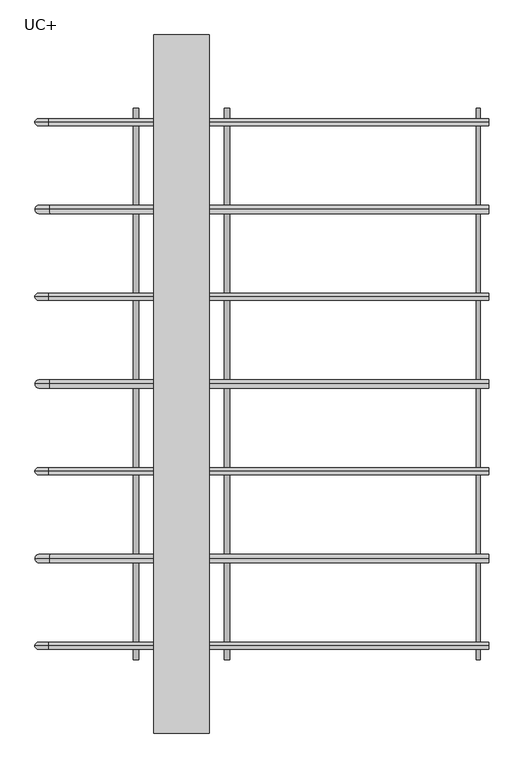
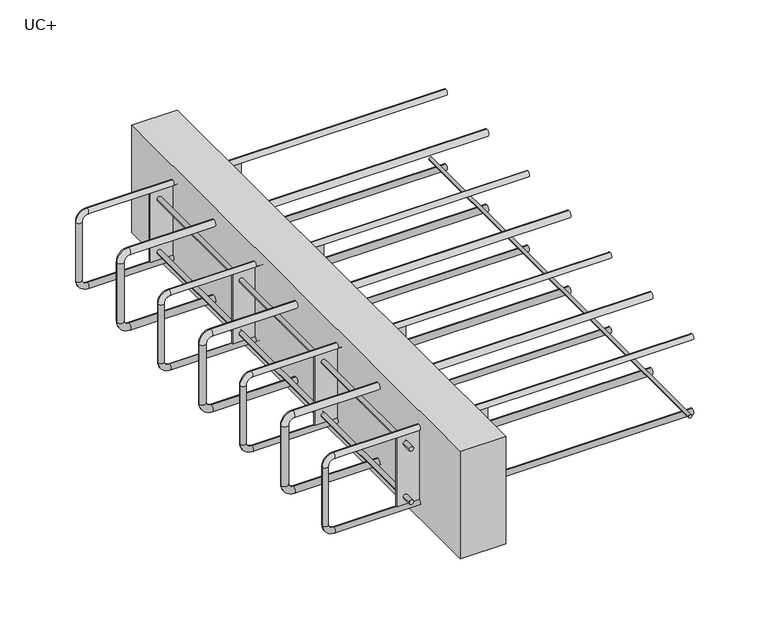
"""IFC4 building model written with IfcOpenShell, lengths in millimetres: fastener geometry, ACINOXplus_Typenreihe_Ux-Ox : UC+."""

import ifcopenshell
import ifcopenshell.guid

model = None  # the IFC model being written
_history = None  # IfcOwnerHistory: only IFC2X3 demands one
_inside = {}  # id of a spatial element -> (the spatial element, [elements in it])
_under = {}  # id of a project, library or spatial element -> (it, [spatial elements below it])
_declared = {}  # id of a project -> (the project, [libraries it declares])
_typed = {}  # id of a type object -> (the type object, [elements of that type])
_made_of = {}  # id of a material, layer set ... -> (it, [elements and type objects made of it])


def new_model(schema):
    """Start an empty IFC model of exactly this schema.

    Asked for "IFC4X3", IfcOpenShell would pick the latest addendum, in which some entities
    have other attributes; the version numbers below select the first issue.
    IFC2X3 requires an IfcOwnerHistory on every rooted entity: one is made here for all.
    """
    global model, _history
    if schema == "IFC4X3":
        model = ifcopenshell.file(schema_version=(4, 3, 0, 0))
    else:
        model = ifcopenshell.file(schema=schema)
    _inside.clear()
    _under.clear()
    _declared.clear()
    _typed.clear()
    _made_of.clear()
    _history = None
    if model.schema == "IFC2X3":
        org = make("IfcOrganization", Name="unknown")
        user = make(
            "IfcPersonAndOrganization",
            ThePerson=make("IfcPerson", FamilyName="unknown"),
            TheOrganization=org,
        )
        app = make(
            "IfcApplication",
            ApplicationDeveloper=org,
            Version="unknown",
            ApplicationFullName="unknown",
            ApplicationIdentifier="unknown",
        )
        _history = make(
            "IfcOwnerHistory",
            OwningUser=user,
            OwningApplication=app,
            ChangeAction="ADDED",
            CreationDate=0,
        )
    return model


def make(cls, **values):
    """One entity of the class cls with the attributes given. An attribute that is None is left unset."""
    return model.create_entity(
        cls, **{name: value for name, value in values.items() if value is not None}
    )


def rooted(cls, **values):
    """An entity with a GlobalId (a new one), such as an element, a storey or a relation."""
    return make(cls, GlobalId=ifcopenshell.guid.new(), OwnerHistory=_history, **values)


def si_unit(unit_type, name, prefix=None):
    """IfcSIUnit, for example si_unit("LENGTHUNIT", "METRE", prefix="MILLI")."""
    return make("IfcSIUnit", UnitType=unit_type, Prefix=prefix, Name=name)


def assignment(units):
    """IfcUnitAssignment: the units of a project."""
    return None if units is None else make("IfcUnitAssignment", Units=units)


def point(xyz):
    """IfcCartesianPoint."""
    return None if xyz is None else make("IfcCartesianPoint", Coordinates=xyz)


def direction(xyz):
    """IfcDirection."""
    return None if xyz is None else make("IfcDirection", DirectionRatios=xyz)


def frame(location, z_axis=None, x_axis=None):
    """IfcAxis2Placement3D, a coordinate frame: its origin and axes. An axis left out is left unset."""
    return make(
        "IfcAxis2Placement3D",
        Location=point(location),
        Axis=direction(z_axis),
        RefDirection=direction(x_axis),
    )


def frame_2d(location, x_axis=None):
    """IfcAxis2Placement2D, a coordinate frame in the plane: its origin and x axis."""
    return make(
        "IfcAxis2Placement2D", Location=point(location), RefDirection=direction(x_axis)
    )


def origin():
    """The frame at (0, 0, 0) with its axes left unset."""
    return frame((0.0, 0.0, 0.0))


def place(relative_to, where):
    """IfcLocalPlacement: puts the frame where relative to a parent placement (None: the world)."""
    return make(
        "IfcLocalPlacement", PlacementRelTo=relative_to, RelativePlacement=where
    )


def context(
    kind, dimensions, precision=None, world=None, true_north=None, identifier=None
):
    """IfcGeometricRepresentationContext, for example the 3D "Model" context."""
    return make(
        "IfcGeometricRepresentationContext",
        ContextIdentifier=identifier,
        ContextType=kind,
        CoordinateSpaceDimension=dimensions,
        Precision=precision,
        WorldCoordinateSystem=world,
        TrueNorth=true_north,
    )


def project(units=None, contexts=None):
    """IfcProject with its units and contexts."""
    return rooted(
        "IfcProject",
        Name="project",
        RepresentationContexts=contexts,
        UnitsInContext=assignment(units),
    )


def spatial(cls, under=None, at=None, **own):
    """A site, building, storey or space (cls), placed at a placement, below another one or the project."""
    s = rooted(cls, ObjectPlacement=at, **own)
    if under is not None:
        _under.setdefault(under.id(), (under, []))[1].append(s)
    return s


def polyline(points):
    """IfcPolyline through the points."""
    return make("IfcPolyline", Points=[point(p) for p in points])


def circle_curve(where, radius):
    """IfcCircle in the frame where."""
    return make("IfcCircle", Position=where, Radius=radius)


def ellipse_curve(where, semi_axis1, semi_axis2):
    """IfcEllipse in the frame where."""
    return make(
        "IfcEllipse", Position=where, SemiAxis1=semi_axis1, SemiAxis2=semi_axis2
    )


def trimmed(basis, trim1, trim2, sense, master):
    """IfcTrimmedCurve: the piece of a basis curve between two trims."""
    return make(
        "IfcTrimmedCurve",
        BasisCurve=basis,
        Trim1=trim1,
        Trim2=trim2,
        SenseAgreement=sense,
        MasterRepresentation=master,
    )


def segment(curve, same_sense, transition):
    """IfcCompositeCurveSegment."""
    return make(
        "IfcCompositeCurveSegment",
        Transition=transition,
        SameSense=same_sense,
        ParentCurve=curve,
    )


def composite_curve(segments, self_intersect=None):
    """IfcCompositeCurve: segments joined end to end."""
    return make("IfcCompositeCurve", Segments=segments, SelfIntersect=self_intersect)


def outline(outer, holes=None, kind="AREA"):
    """IfcArbitraryClosedProfileDef: a profile drawn as a closed curve; with holes, ...WithVoids."""
    if holes is None:
        return make("IfcArbitraryClosedProfileDef", ProfileType=kind, OuterCurve=outer)
    return make(
        "IfcArbitraryProfileDefWithVoids",
        ProfileType=kind,
        OuterCurve=outer,
        InnerCurves=holes,
    )


def extrude(swept, where, along, depth):
    """IfcExtrudedAreaSolid: the profile swept, set in the frame where, extruded along a direction by depth."""
    return make(
        "IfcExtrudedAreaSolid",
        SweptArea=swept,
        Position=where,
        ExtrudedDirection=direction(along),
        Depth=depth,
    )


def shape(context_of_items, identifier, shape_type, items):
    """IfcShapeRepresentation: the items that make up one representation, for example the "Body"."""
    return make(
        "IfcShapeRepresentation",
        ContextOfItems=context_of_items,
        RepresentationIdentifier=identifier,
        RepresentationType=shape_type,
        Items=items,
    )


def source(mapping_origin, context_of_items, identifier, shape_type, items):
    """IfcRepresentationMap: a shape defined once, which mapped items show again and again."""
    return make(
        "IfcRepresentationMap",
        MappingOrigin=mapping_origin,
        MappedRepresentation=shape(context_of_items, identifier, shape_type, items),
    )


def transform(
    local_origin,
    x_axis=None,
    y_axis=None,
    z_axis=None,
    scale=None,
    scale2=None,
    scale3=None,
    uniform=True,
):
    """IfcCartesianTransformationOperator3D, or its non-uniform kind. x_axis, y_axis, z_axis: its Axis1, 2, 3."""
    if uniform:
        return make(
            "IfcCartesianTransformationOperator3D",
            Axis1=direction(x_axis),
            Axis2=direction(y_axis),
            LocalOrigin=point(local_origin),
            Scale=scale,
            Axis3=direction(z_axis),
        )
    return make(
        "IfcCartesianTransformationOperator3DnonUniform",
        Axis1=direction(x_axis),
        Axis2=direction(y_axis),
        LocalOrigin=point(local_origin),
        Scale=scale,
        Axis3=direction(z_axis),
        Scale2=scale2,
        Scale3=scale3,
    )


def mapped(mapping_source, mapping_target):
    """IfcMappedItem: shows the shape of a source again, moved by a transform."""
    return make(
        "IfcMappedItem", MappingSource=mapping_source, MappingTarget=mapping_target
    )


def made_of(thing, what):
    """Note that an element or type object is made of a material, layer set ...; save() writes the relation."""
    if what is not None:
        _made_of.setdefault(what.id(), (what, []))[1].append(thing)
    return thing


def element(
    cls,
    number,
    at=None,
    inside=None,
    cuts=None,
    type_object=None,
    material=None,
    context=None,
    identifier="Body",
    shape_type=None,
    held_by="IfcProductDefinitionShape",
    body=None,
    shapes=None,
    **own,
):
    """One element of the class cls, such as IfcWall. Its Tag is "e" and its number.

    at: its placement. inside: the storey or other place that contains it. cuts: it is an
    opening in that element (IfcRelVoidsElement). A single representation is given by context,
    identifier, shape_type and body (its items); several are given by shapes. held_by: the class
    of the entity that holds the representations. save() writes the other relations.
    """
    e = rooted(cls, Tag="e%d" % number, ObjectPlacement=at, **own)
    if body is not None:
        shapes = [shape(context, identifier, shape_type, body)]
    if shapes is not None:
        e.Representation = make(held_by, Representations=shapes)
    if inside is not None:
        _inside.setdefault(inside.id(), (inside, []))[1].append(e)
    if cuts is not None:
        rooted(
            "IfcRelVoidsElement", RelatingBuildingElement=cuts, RelatedOpeningElement=e
        )
    if type_object is not None:
        _typed.setdefault(type_object.id(), (type_object, []))[1].append(e)
    return made_of(e, material)


def aggregate(whole, parts):
    """IfcRelAggregates: a whole, such as a stair, and the parts it consists of."""
    return rooted("IfcRelAggregates", RelatingObject=whole, RelatedObjects=parts)


def save(model, path):
    """Write the relations noted so far, then the file.

    IfcRelAggregates (storeys below a building ...), IfcRelContainedInSpatialStructure (elements
    in a storey), IfcRelDefinesByType, IfcRelAssociatesMaterial and IfcRelDeclares: one each for
    every whole, place, type object, material and project.
    """
    for whole, parts in _under.values():
        aggregate(whole, parts)
    for where, things in _inside.values():
        rooted(
            "IfcRelContainedInSpatialStructure",
            RelatedElements=things,
            RelatingStructure=where,
        )
    for kind, things in _typed.values():
        rooted("IfcRelDefinesByType", RelatedObjects=things, RelatingType=kind)
    for what, things in _made_of.values():
        rooted("IfcRelAssociatesMaterial", RelatedObjects=things, RelatingMaterial=what)
    for by, libraries in _declared.values():
        rooted("IfcRelDeclares", RelatingContext=by, RelatedDefinitions=libraries)
    model.write(path)


def plane_surface(at):
    """IfcPlane: the flat surface through the origin of the frame at, square to its z axis."""
    return make("IfcPlane", Position=at)


def cylinder_surface(at, radius):
    """IfcCylindricalSurface: all points at the distance radius from the z axis of the frame at."""
    return make("IfcCylindricalSurface", Position=at, Radius=radius)


def revolved_surface(curve, axis_point, axis_direction):
    """IfcSurfaceOfRevolution: the curve turned about the line through axis_point along axis_direction."""
    return make(
        "IfcSurfaceOfRevolution",
        SweptCurve=make("IfcArbitraryOpenProfileDef", ProfileType="CURVE", Curve=curve),
        AxisPosition=make("IfcAxis1Placement", Location=point(axis_point), Axis=direction(axis_direction)),
    )


def advanced_brep(points, edges, surfaces, faces):
    """IfcAdvancedBrep: a solid bounded by faces that lie on surfaces and meet in shared edges.

    An edge is (start, end): straight between two places in points (the first is 0);
    or (start, end, curve); or (start, end, curve, False) where it runs against its curve.
    A face is (place in surfaces, loops), or (place, loops, False) where it looks against
    its surface's normal. A loop lists edges by number (the first is 1), with a minus sign
    where the edge is run from its end to its start. The first loop is the outer one.
    """
    corners = [point(p) for p in points]
    vertices = [make("IfcVertexPoint", VertexGeometry=c) for c in corners]
    made = []
    for start, end, *more in edges:
        made.append(
            make(
                "IfcEdgeCurve",
                EdgeStart=vertices[start],
                EdgeEnd=vertices[end],
                EdgeGeometry=more[0] if more else make("IfcPolyline", Points=[corners[start], corners[end]]),
                SameSense=more[1] if len(more) > 1 else True,
            )
        )
    hull = []
    for where, loops, *sense in faces:
        bounds = []
        for j, loop in enumerate(loops):
            ring = [make("IfcOrientedEdge", EdgeElement=made[abs(k) - 1], Orientation=k > 0) for k in loop]
            bounds.append(
                make(
                    "IfcFaceOuterBound" if j == 0 else "IfcFaceBound",
                    Bound=make("IfcEdgeLoop", EdgeList=ring),
                    Orientation=True,
                )
            )
        hull.append(make("IfcAdvancedFace", Bounds=bounds, FaceSurface=surfaces[where], SameSense=sense[0] if sense else True))
    return make("IfcAdvancedBrep", Outer=make("IfcClosedShell", CfsFaces=hull))


def uc_1beb6939(model_context):
    return source(origin(), model_context, "Body", "SolidModel", [
        advanced_brep(
        [(440.0, 0.0, -23.5), (440.0, 0.0, -35.5), (-189.0, 0.0, -23.5), (-189.0, 0.0, -35.5), (-198.0, 0.0, -44.5), (-210.0, 0.0, -44.5), (-210.0, 0.0, -155.5), (-198.0, 0.0, -155.5), (-189.0, 0.0, -164.5), (-189.0, 0.0, -176.5), (440.0, 0.0, -176.5), (440.0, 0.0, -164.5)],
        [
            (0, 1, circle_curve(frame((440.0, 0.0, -29.5), z_axis=(1.0, 0.0, 0.0), x_axis=(0.0, 0.0, -1.0)), 6.0)),
            (1, 0, circle_curve(frame((440.0, 0.0, -29.5), z_axis=(1.0, 0.0, 0.0), x_axis=(0.0, 0.0, -1.0)), 6.0)),
            (0, 2),
            (2, 3, circle_curve(frame((-189.0, 0.0, -29.5), z_axis=(1.0, 0.0, 0.0), x_axis=(0.0, 0.0, -1.0)), 6.0)),
            (3, 1),
            (3, 2, circle_curve(frame((-189.0, 0.0, -29.5), z_axis=(1.0, 0.0, 0.0), x_axis=(0.0, 0.0, -1.0)), 6.0)),
            (4, 3, circle_curve(frame((-189.0, 0.0, -44.5), z_axis=(0.0, 1.0, 0.0), x_axis=(0.0, 0.0, 1.0)), 9.0)),
            (2, 5, circle_curve(frame((-189.0, 0.0, -44.5), z_axis=(0.0, -1.0, 0.0), x_axis=(0.0, 0.0, 1.0)), 21.0)),
            (5, 4, circle_curve(frame((-204.0, 0.0, -44.5), z_axis=(0.0, 0.0, 1.0), x_axis=(1.0, 0.0, 0.0)), 6.0)),
            (4, 5, circle_curve(frame((-204.0, 0.0, -44.5), z_axis=(0.0, 0.0, 1.0), x_axis=(1.0, 0.0, 0.0)), 6.0)),
            (5, 6),
            (6, 7, circle_curve(frame((-204.0, 0.0, -155.5), z_axis=(0.0, 0.0, 1.0), x_axis=(1.0, 0.0, 0.0)), 6.0)),
            (7, 4),
            (7, 6, circle_curve(frame((-204.0, 0.0, -155.5), z_axis=(0.0, 0.0, 1.0), x_axis=(1.0, 0.0, 0.0)), 6.0)),
            (8, 7, circle_curve(frame((-189.0, 0.0, -155.5), z_axis=(0.0, 1.0, 0.0), x_axis=(-1.0, 0.0, 0.0)), 9.0)),
            (6, 9, circle_curve(frame((-189.0, 0.0, -155.5), z_axis=(0.0, -1.0, 0.0), x_axis=(-1.0, 0.0, 0.0)), 21.0)),
            (9, 8, circle_curve(frame((-189.0, 0.0, -170.5), z_axis=(-1.0, 0.0, 0.0), x_axis=(0.0, 0.0, 1.0)), 6.0)),
            (8, 9, circle_curve(frame((-189.0, 0.0, -170.5), z_axis=(-1.0, 0.0, 0.0), x_axis=(0.0, 0.0, 1.0)), 6.0)),
            (10, 11, circle_curve(frame((440.0, 0.0, -170.5), z_axis=(1.0, 0.0, 0.0), x_axis=(0.0, 0.0, 1.0)), 6.0)),
            (11, 10, circle_curve(frame((440.0, 0.0, -170.5), z_axis=(1.0, 0.0, 0.0), x_axis=(0.0, 0.0, 1.0)), 6.0)),
            (9, 10),
            (11, 8),
        ],
        [
            plane_surface(frame((440.0, 0.0, -29.5), z_axis=(1.0, 0.0, 0.0), x_axis=(0.0, -1.0, 0.0))),
            cylinder_surface(frame((440.0, 0.0, -29.5), z_axis=(1.0, 0.0, 0.0), x_axis=(0.0, 0.0, -1.0)), 6.0),
            revolved_surface(trimmed(ellipse_curve(frame((-189.0, 0.0, -29.5), z_axis=(1.0, 0.0, 0.0), x_axis=(0.0, 0.0, -1.0)), 6.0, 6.0), [point((-189.0, 0.0, -23.5))], [point((-189.0, 0.0, -35.5))], True, "CARTESIAN"), (-189.0, 0.0, -44.5), (0.0, -1.0, 0.0)),
            revolved_surface(trimmed(ellipse_curve(frame((-189.0, 0.0, -29.5), z_axis=(1.0, 0.0, 0.0), x_axis=(0.0, 0.0, -1.0)), 6.0, 6.0), [point((-189.0, 0.0, -35.5))], [point((-189.0, 0.0, -23.5))], True, "CARTESIAN"), (-189.0, 0.0, -44.5), (0.0, -1.0, 0.0)),
            cylinder_surface(frame((-204.0, 0.0, -44.5), z_axis=(0.0, 0.0, 1.0), x_axis=(1.0, 0.0, 0.0)), 6.0),
            revolved_surface(trimmed(ellipse_curve(frame((-204.0, 0.0, -155.5), z_axis=(0.0, 0.0, 1.0), x_axis=(1.0, 0.0, 0.0)), 6.0, 6.0), [point((-210.0, 0.0, -155.5))], [point((-198.0, 0.0, -155.5))], True, "CARTESIAN"), (-189.0, 0.0, -155.5), (0.0, -1.0, 0.0)),
            revolved_surface(trimmed(ellipse_curve(frame((-204.0, 0.0, -155.5), z_axis=(0.0, 0.0, 1.0), x_axis=(1.0, 0.0, 0.0)), 6.0, 6.0), [point((-198.0, 0.0, -155.5))], [point((-210.0, 0.0, -155.5))], True, "CARTESIAN"), (-189.0, 0.0, -155.5), (0.0, -1.0, 0.0)),
            plane_surface(frame((440.0, 0.0, -170.5), z_axis=(1.0, 0.0, 0.0), x_axis=(0.0, -1.0, 0.0))),
            cylinder_surface(frame((-189.0, 0.0, -170.5), z_axis=(-1.0, 0.0, 0.0), x_axis=(0.0, 0.0, 1.0)), 6.0),
        ],
        [
            (0, [[1, 2]]),
            (1, [[-1, 3, 4, 5]]),
            (1, [[-2, -5, 6, -3]]),
            (2, [[7, -4, 8, 9]]),
            (3, [[-8, -6, -7, 10]]),
            (4, [[-9, 11, 12, 13]]),
            (4, [[-10, -13, 14, -11]]),
            (5, [[15, -12, 16, 17]]),
            (6, [[-16, -14, -15, 18]]),
            (7, [[19, 20]]),
            (8, [[-17, 21, -20, 22]]),
            (8, [[-18, -22, -19, -21]]),
        ],
    ),
        advanced_brep(
        [(440.0, 250.0, -23.5), (440.0, 250.0, -35.5), (-189.0, 250.0, -23.5), (-189.0, 250.0, -35.5), (-198.0, 250.0, -44.5), (-210.0, 250.0, -44.5), (-210.0, 250.0, -155.5), (-198.0, 250.0, -155.5), (-189.0, 250.0, -164.5), (-189.0, 250.0, -176.5), (440.0, 250.0, -176.5), (440.0, 250.0, -164.5)],
        [
            (0, 1, circle_curve(frame((440.0, 250.0, -29.5), z_axis=(1.0, 0.0, 0.0), x_axis=(0.0, 0.0, -1.0)), 6.0)),
            (1, 0, circle_curve(frame((440.0, 250.0, -29.5), z_axis=(1.0, 0.0, 0.0), x_axis=(0.0, 0.0, -1.0)), 6.0)),
            (0, 2),
            (2, 3, circle_curve(frame((-189.0, 250.0, -29.5), z_axis=(1.0, 0.0, 0.0), x_axis=(0.0, 0.0, -1.0)), 6.0)),
            (3, 1),
            (3, 2, circle_curve(frame((-189.0, 250.0, -29.5), z_axis=(1.0, 0.0, 0.0), x_axis=(0.0, 0.0, -1.0)), 6.0)),
            (4, 3, circle_curve(frame((-189.0, 250.0, -44.5), z_axis=(0.0, 1.0, 0.0), x_axis=(0.0, 0.0, 1.0)), 9.0)),
            (2, 5, circle_curve(frame((-189.0, 250.0, -44.5), z_axis=(0.0, -1.0, 0.0), x_axis=(0.0, 0.0, 1.0)), 21.0)),
            (5, 4, circle_curve(frame((-204.0, 250.0, -44.5), z_axis=(0.0, 0.0, 1.0), x_axis=(1.0, 0.0, 0.0)), 6.0)),
            (4, 5, circle_curve(frame((-204.0, 250.0, -44.5), z_axis=(0.0, 0.0, 1.0), x_axis=(1.0, 0.0, 0.0)), 6.0)),
            (5, 6),
            (6, 7, circle_curve(frame((-204.0, 250.0, -155.5), z_axis=(0.0, 0.0, 1.0), x_axis=(1.0, 0.0, 0.0)), 6.0)),
            (7, 4),
            (7, 6, circle_curve(frame((-204.0, 250.0, -155.5), z_axis=(0.0, 0.0, 1.0), x_axis=(1.0, 0.0, 0.0)), 6.0)),
            (8, 7, circle_curve(frame((-189.0, 250.0, -155.5), z_axis=(0.0, 1.0, 0.0), x_axis=(-1.0, 0.0, 0.0)), 9.0)),
            (6, 9, circle_curve(frame((-189.0, 250.0, -155.5), z_axis=(0.0, -1.0, 0.0), x_axis=(-1.0, 0.0, 0.0)), 21.0)),
            (9, 8, circle_curve(frame((-189.0, 250.0, -170.5), z_axis=(-1.0, 0.0, 0.0), x_axis=(0.0, 0.0, 1.0)), 6.0)),
            (8, 9, circle_curve(frame((-189.0, 250.0, -170.5), z_axis=(-1.0, 0.0, 0.0), x_axis=(0.0, 0.0, 1.0)), 6.0)),
            (10, 11, circle_curve(frame((440.0, 250.0, -170.5), z_axis=(1.0, 0.0, 0.0), x_axis=(0.0, 0.0, 1.0)), 6.0)),
            (11, 10, circle_curve(frame((440.0, 250.0, -170.5), z_axis=(1.0, 0.0, 0.0), x_axis=(0.0, 0.0, 1.0)), 6.0)),
            (9, 10),
            (11, 8),
        ],
        [
            plane_surface(frame((440.0, 250.0, -29.5), z_axis=(1.0, 0.0, 0.0), x_axis=(0.0, -1.0, 0.0))),
            cylinder_surface(frame((440.0, 250.0, -29.5), z_axis=(1.0, 0.0, 0.0), x_axis=(0.0, 0.0, -1.0)), 6.0),
            revolved_surface(trimmed(ellipse_curve(frame((-189.0, 250.0, -29.5), z_axis=(1.0, 0.0, 0.0), x_axis=(0.0, 0.0, -1.0)), 6.0, 6.0), [point((-189.0, 250.0, -23.5))], [point((-189.0, 250.0, -35.5))], True, "CARTESIAN"), (-189.0, 250.0, -44.5), (0.0, -1.0, 0.0)),
            revolved_surface(trimmed(ellipse_curve(frame((-189.0, 250.0, -29.5), z_axis=(1.0, 0.0, 0.0), x_axis=(0.0, 0.0, -1.0)), 6.0, 6.0), [point((-189.0, 250.0, -35.5))], [point((-189.0, 250.0, -23.5))], True, "CARTESIAN"), (-189.0, 250.0, -44.5), (0.0, -1.0, 0.0)),
            cylinder_surface(frame((-204.0, 250.0, -44.5), z_axis=(0.0, 0.0, 1.0), x_axis=(1.0, 0.0, 0.0)), 6.0),
            revolved_surface(trimmed(ellipse_curve(frame((-204.0, 250.0, -155.5), z_axis=(0.0, 0.0, 1.0), x_axis=(1.0, 0.0, 0.0)), 6.0, 6.0), [point((-210.0, 250.0, -155.5))], [point((-198.0, 250.0, -155.5))], True, "CARTESIAN"), (-189.0, 250.0, -155.5), (0.0, -1.0, 0.0)),
            revolved_surface(trimmed(ellipse_curve(frame((-204.0, 250.0, -155.5), z_axis=(0.0, 0.0, 1.0), x_axis=(1.0, 0.0, 0.0)), 6.0, 6.0), [point((-198.0, 250.0, -155.5))], [point((-210.0, 250.0, -155.5))], True, "CARTESIAN"), (-189.0, 250.0, -155.5), (0.0, -1.0, 0.0)),
            plane_surface(frame((440.0, 250.0, -170.5), z_axis=(1.0, 0.0, 0.0), x_axis=(0.0, -1.0, 0.0))),
            cylinder_surface(frame((-189.0, 250.0, -170.5), z_axis=(-1.0, 0.0, 0.0), x_axis=(0.0, 0.0, 1.0)), 6.0),
        ],
        [
            (0, [[1, 2]]),
            (1, [[-1, 3, 4, 5]]),
            (1, [[-2, -5, 6, -3]]),
            (2, [[7, -4, 8, 9]]),
            (3, [[-8, -6, -7, 10]]),
            (4, [[-9, 11, 12, 13]]),
            (4, [[-10, -13, 14, -11]]),
            (5, [[15, -12, 16, 17]]),
            (6, [[-16, -14, -15, 18]]),
            (7, [[19, 20]]),
            (8, [[-17, 21, -20, 22]]),
            (8, [[-18, -22, -19, -21]]),
        ],
    ),
        advanced_brep(
        [(440.0, -250.0, -23.5), (440.0, -250.0, -35.5), (-189.0, -250.0, -23.5), (-189.0, -250.0, -35.5), (-198.0, -250.0, -44.5), (-210.0, -250.0, -44.5), (-210.0, -250.0, -155.5), (-198.0, -250.0, -155.5), (-189.0, -250.0, -164.5), (-189.0, -250.0, -176.5), (440.0, -250.0, -176.5), (440.0, -250.0, -164.5)],
        [
            (0, 1, circle_curve(frame((440.0, -250.0, -29.5), z_axis=(1.0, 0.0, 0.0), x_axis=(0.0, 0.0, -1.0)), 6.0)),
            (1, 0, circle_curve(frame((440.0, -250.0, -29.5), z_axis=(1.0, 0.0, 0.0), x_axis=(0.0, 0.0, -1.0)), 6.0)),
            (0, 2),
            (2, 3, circle_curve(frame((-189.0, -250.0, -29.5), z_axis=(1.0, 0.0, 0.0), x_axis=(0.0, 0.0, -1.0)), 6.0)),
            (3, 1),
            (3, 2, circle_curve(frame((-189.0, -250.0, -29.5), z_axis=(1.0, 0.0, 0.0), x_axis=(0.0, 0.0, -1.0)), 6.0)),
            (4, 3, circle_curve(frame((-189.0, -250.0, -44.5), z_axis=(0.0, 1.0, 0.0), x_axis=(0.0, 0.0, 1.0)), 9.0)),
            (2, 5, circle_curve(frame((-189.0, -250.0, -44.5), z_axis=(0.0, -1.0, 0.0), x_axis=(0.0, 0.0, 1.0)), 21.0)),
            (5, 4, circle_curve(frame((-204.0, -250.0, -44.5), z_axis=(0.0, 0.0, 1.0), x_axis=(1.0, 0.0, 0.0)), 6.0)),
            (4, 5, circle_curve(frame((-204.0, -250.0, -44.5), z_axis=(0.0, 0.0, 1.0), x_axis=(1.0, 0.0, 0.0)), 6.0)),
            (5, 6),
            (6, 7, circle_curve(frame((-204.0, -250.0, -155.5), z_axis=(0.0, 0.0, 1.0), x_axis=(1.0, 0.0, 0.0)), 6.0)),
            (7, 4),
            (7, 6, circle_curve(frame((-204.0, -250.0, -155.5), z_axis=(0.0, 0.0, 1.0), x_axis=(1.0, 0.0, 0.0)), 6.0)),
            (8, 7, circle_curve(frame((-189.0, -250.0, -155.5), z_axis=(0.0, 1.0, 0.0), x_axis=(-1.0, 0.0, 0.0)), 9.0)),
            (6, 9, circle_curve(frame((-189.0, -250.0, -155.5), z_axis=(0.0, -1.0, 0.0), x_axis=(-1.0, 0.0, 0.0)), 21.0)),
            (9, 8, circle_curve(frame((-189.0, -250.0, -170.5), z_axis=(-1.0, 0.0, 0.0), x_axis=(0.0, 0.0, 1.0)), 6.0)),
            (8, 9, circle_curve(frame((-189.0, -250.0, -170.5), z_axis=(-1.0, 0.0, 0.0), x_axis=(0.0, 0.0, 1.0)), 6.0)),
            (10, 11, circle_curve(frame((440.0, -250.0, -170.5), z_axis=(1.0, 0.0, 0.0), x_axis=(0.0, 0.0, 1.0)), 6.0)),
            (11, 10, circle_curve(frame((440.0, -250.0, -170.5), z_axis=(1.0, 0.0, 0.0), x_axis=(0.0, 0.0, 1.0)), 6.0)),
            (9, 10),
            (11, 8),
        ],
        [
            plane_surface(frame((440.0, -250.0, -29.5), z_axis=(1.0, 0.0, 0.0), x_axis=(0.0, -1.0, 0.0))),
            cylinder_surface(frame((440.0, -250.0, -29.5), z_axis=(1.0, 0.0, 0.0), x_axis=(0.0, 0.0, -1.0)), 6.0),
            revolved_surface(trimmed(ellipse_curve(frame((-189.0, -250.0, -29.5), z_axis=(1.0, 0.0, 0.0), x_axis=(0.0, 0.0, -1.0)), 6.0, 6.0), [point((-189.0, -250.0, -23.5))], [point((-189.0, -250.0, -35.5))], True, "CARTESIAN"), (-189.0, -250.0, -44.5), (0.0, -1.0, 0.0)),
            revolved_surface(trimmed(ellipse_curve(frame((-189.0, -250.0, -29.5), z_axis=(1.0, 0.0, 0.0), x_axis=(0.0, 0.0, -1.0)), 6.0, 6.0), [point((-189.0, -250.0, -35.5))], [point((-189.0, -250.0, -23.5))], True, "CARTESIAN"), (-189.0, -250.0, -44.5), (0.0, -1.0, 0.0)),
            cylinder_surface(frame((-204.0, -250.0, -44.5), z_axis=(0.0, 0.0, 1.0), x_axis=(1.0, 0.0, 0.0)), 6.0),
            revolved_surface(trimmed(ellipse_curve(frame((-204.0, -250.0, -155.5), z_axis=(0.0, 0.0, 1.0), x_axis=(1.0, 0.0, 0.0)), 6.0, 6.0), [point((-210.0, -250.0, -155.5))], [point((-198.0, -250.0, -155.5))], True, "CARTESIAN"), (-189.0, -250.0, -155.5), (0.0, -1.0, 0.0)),
            revolved_surface(trimmed(ellipse_curve(frame((-204.0, -250.0, -155.5), z_axis=(0.0, 0.0, 1.0), x_axis=(1.0, 0.0, 0.0)), 6.0, 6.0), [point((-198.0, -250.0, -155.5))], [point((-210.0, -250.0, -155.5))], True, "CARTESIAN"), (-189.0, -250.0, -155.5), (0.0, -1.0, 0.0)),
            plane_surface(frame((440.0, -250.0, -170.5), z_axis=(1.0, 0.0, 0.0), x_axis=(0.0, -1.0, 0.0))),
            cylinder_surface(frame((-189.0, -250.0, -170.5), z_axis=(-1.0, 0.0, 0.0), x_axis=(0.0, 0.0, 1.0)), 6.0),
        ],
        [
            (0, [[1, 2]]),
            (1, [[-1, 3, 4, 5]]),
            (1, [[-2, -5, 6, -3]]),
            (2, [[7, -4, 8, 9]]),
            (3, [[-8, -6, -7, 10]]),
            (4, [[-9, 11, 12, 13]]),
            (4, [[-10, -13, 14, -11]]),
            (5, [[15, -12, 16, 17]]),
            (6, [[-16, -14, -15, 18]]),
            (7, [[19, 20]]),
            (8, [[-17, 21, -20, 22]]),
            (8, [[-18, -22, -19, -21]]),
        ],
    ),
        extrude(outline(composite_curve([segment(trimmed(circle_curve(frame_2d((-161.5, 425.0)), 3.0), [point((-161.5, 428.0))], [point((-161.5, 422.0))], False, "CARTESIAN"), True, "CONTINUOUS"), segment(trimmed(circle_curve(frame_2d((-161.5, 425.0)), 3.0), [point((-161.5, 422.0))], [point((-161.5, 428.0))], False, "CARTESIAN"), True, "CONTINUOUS")], self_intersect=False)), frame((0.0, -395.0, 0.0), z_axis=(0.0, 1.0, 0.0), x_axis=(0.0, 0.0, 1.0)), (0.0, 0.0, 1.0), 790.0),
        extrude(outline(polyline([(40.0, 500.0), (40.0, -500.0), (-40.0, -500.0), (-40.0, 500.0), (40.0, 500.0)])), frame((0.0, 0.0, -200.0), z_axis=(0.0, 0.0, 1.0), x_axis=(1.0, 0.0, 0.0)), (0.0, 0.0, 1.0), 200.0),
        extrude(outline(polyline([(80.0, -123.5), (80.0, -126.5), (-80.0, -126.5), (-80.0, -123.5), (80.0, -123.5)])), frame((0.0, 0.0, -164.5), z_axis=(0.0, 0.0, 1.0), x_axis=(1.0, 0.0, 0.0)), (0.0, 0.0, 1.0), 129.0),
        extrude(outline(polyline([(80.0, 126.5), (80.0, 123.5), (-80.0, 123.5), (-80.0, 126.5), (80.0, 126.5)])), frame((0.0, 0.0, -164.5), z_axis=(0.0, 0.0, 1.0), x_axis=(1.0, 0.0, 0.0)), (0.0, 0.0, 1.0), 129.0),
        extrude(outline(polyline([(80.0, -373.5), (80.0, -376.5), (-80.0, -376.5), (-80.0, -373.5), (80.0, -373.5)])), frame((0.0, 0.0, -164.5), z_axis=(0.0, 0.0, 1.0), x_axis=(1.0, 0.0, 0.0)), (0.0, 0.0, 1.0), 129.0),
        extrude(outline(polyline([(80.0, 376.5), (80.0, 373.5), (-80.0, 373.5), (-80.0, 376.5), (80.0, 376.5)])), frame((0.0, 0.0, -164.5), z_axis=(0.0, 0.0, 1.0), x_axis=(1.0, 0.0, 0.0)), (0.0, 0.0, 1.0), 129.0),
        extrude(outline(composite_curve([segment(trimmed(circle_curve(frame_2d((-149.5, -65.0)), 4.0), [point((-149.5, -61.0))], [point((-149.5, -69.0))], False, "CARTESIAN"), True, "CONTINUOUS"), segment(trimmed(circle_curve(frame_2d((-149.5, -65.0)), 4.0), [point((-149.5, -69.0))], [point((-149.5, -61.0))], False, "CARTESIAN"), True, "CONTINUOUS")], self_intersect=False)), frame((0.0, -395.0, 0.0), z_axis=(0.0, 1.0, 0.0), x_axis=(0.0, 0.0, 1.0)), (0.0, 0.0, 1.0), 18.5),
        extrude(outline(composite_curve([segment(trimmed(circle_curve(frame_2d((-149.5, -65.0)), 4.0), [point((-149.5, -69.0))], [point((-149.5, -61.0))], False, "CARTESIAN"), True, "CONTINUOUS"), segment(trimmed(circle_curve(frame_2d((-149.5, -65.0)), 4.0), [point((-149.5, -61.0))], [point((-149.5, -69.0))], False, "CARTESIAN"), True, "CONTINUOUS")], self_intersect=False)), frame((0.0, -373.5, 0.0), z_axis=(0.0, 1.0, 0.0), x_axis=(0.0, 0.0, 1.0)), (0.0, 0.0, 1.0), 497.0),
        extrude(outline(composite_curve([segment(trimmed(circle_curve(frame_2d((-149.5, -65.0)), 4.0), [point((-149.5, -69.0))], [point((-149.5, -61.0))], False, "CARTESIAN"), True, "CONTINUOUS"), segment(trimmed(circle_curve(frame_2d((-149.5, -65.0)), 4.0), [point((-149.5, -61.0))], [point((-149.5, -69.0))], False, "CARTESIAN"), True, "CONTINUOUS")], self_intersect=False)), frame((0.0, 376.5, 0.0), z_axis=(0.0, 1.0, 0.0), x_axis=(0.0, 0.0, 1.0)), (0.0, 0.0, 1.0), 18.5),
        extrude(outline(composite_curve([segment(trimmed(circle_curve(frame_2d((-149.5, -65.0)), 4.0), [point((-149.5, -69.0))], [point((-149.5, -61.0))], False, "CARTESIAN"), True, "CONTINUOUS"), segment(trimmed(circle_curve(frame_2d((-149.5, -65.0)), 4.0), [point((-149.5, -61.0))], [point((-149.5, -69.0))], False, "CARTESIAN"), True, "CONTINUOUS")], self_intersect=False)), frame((0.0, 126.5, 0.0), z_axis=(0.0, 1.0, 0.0), x_axis=(0.0, 0.0, 1.0)), (0.0, 0.0, 1.0), 247.0),
        extrude(outline(composite_curve([segment(trimmed(circle_curve(frame_2d((-149.5, 65.0)), 4.0), [point((-149.5, 69.0))], [point((-149.5, 61.0))], False, "CARTESIAN"), True, "CONTINUOUS"), segment(trimmed(circle_curve(frame_2d((-149.5, 65.0)), 4.0), [point((-149.5, 61.0))], [point((-149.5, 69.0))], False, "CARTESIAN"), True, "CONTINUOUS")], self_intersect=False)), frame((0.0, -395.0, 0.0), z_axis=(0.0, 1.0, 0.0), x_axis=(0.0, 0.0, 1.0)), (0.0, 0.0, 1.0), 18.5),
        extrude(outline(composite_curve([segment(trimmed(circle_curve(frame_2d((-149.5, 65.0)), 4.0), [point((-149.5, 61.0))], [point((-149.5, 69.0))], False, "CARTESIAN"), True, "CONTINUOUS"), segment(trimmed(circle_curve(frame_2d((-149.5, 65.0)), 4.0), [point((-149.5, 69.0))], [point((-149.5, 61.0))], False, "CARTESIAN"), True, "CONTINUOUS")], self_intersect=False)), frame((0.0, -373.5, 0.0), z_axis=(0.0, 1.0, 0.0), x_axis=(0.0, 0.0, 1.0)), (0.0, 0.0, 1.0), 497.0),
        extrude(outline(composite_curve([segment(trimmed(circle_curve(frame_2d((-149.5, 65.0)), 4.0), [point((-149.5, 61.0))], [point((-149.5, 69.0))], False, "CARTESIAN"), True, "CONTINUOUS"), segment(trimmed(circle_curve(frame_2d((-149.5, 65.0)), 4.0), [point((-149.5, 69.0))], [point((-149.5, 61.0))], False, "CARTESIAN"), True, "CONTINUOUS")], self_intersect=False)), frame((0.0, 376.5, 0.0), z_axis=(0.0, 1.0, 0.0), x_axis=(0.0, 0.0, 1.0)), (0.0, 0.0, 1.0), 18.5),
        extrude(outline(composite_curve([segment(trimmed(circle_curve(frame_2d((-149.5, 65.0)), 4.0), [point((-149.5, 61.0))], [point((-149.5, 69.0))], False, "CARTESIAN"), True, "CONTINUOUS"), segment(trimmed(circle_curve(frame_2d((-149.5, 65.0)), 4.0), [point((-149.5, 69.0))], [point((-149.5, 61.0))], False, "CARTESIAN"), True, "CONTINUOUS")], self_intersect=False)), frame((0.0, 126.5, 0.0), z_axis=(0.0, 1.0, 0.0), x_axis=(0.0, 0.0, 1.0)), (0.0, 0.0, 1.0), 247.0),
        extrude(outline(composite_curve([segment(trimmed(circle_curve(frame_2d((-50.5, -65.0)), 4.0), [point((-50.5, -69.0))], [point((-50.5, -61.0))], False, "CARTESIAN"), True, "CONTINUOUS"), segment(trimmed(circle_curve(frame_2d((-50.5, -65.0)), 4.0), [point((-50.5, -61.0))], [point((-50.5, -69.0))], False, "CARTESIAN"), True, "CONTINUOUS")], self_intersect=False)), frame((0.0, 376.5, 0.0), z_axis=(0.0, 1.0, 0.0), x_axis=(0.0, 0.0, 1.0)), (0.0, 0.0, 1.0), 18.5),
        extrude(outline(composite_curve([segment(trimmed(circle_curve(frame_2d((-50.5, -65.0)), 4.0), [point((-50.5, -61.0))], [point((-50.5, -69.0))], False, "CARTESIAN"), True, "CONTINUOUS"), segment(trimmed(circle_curve(frame_2d((-50.5, -65.0)), 4.0), [point((-50.5, -69.0))], [point((-50.5, -61.0))], False, "CARTESIAN"), True, "CONTINUOUS")], self_intersect=False)), frame((0.0, -395.0, 0.0), z_axis=(0.0, 1.0, 0.0), x_axis=(0.0, 0.0, 1.0)), (0.0, 0.0, 1.0), 18.5),
        extrude(outline(composite_curve([segment(trimmed(circle_curve(frame_2d((-50.5, -65.0)), 4.0), [point((-50.5, -69.0))], [point((-50.5, -61.0))], False, "CARTESIAN"), True, "CONTINUOUS"), segment(trimmed(circle_curve(frame_2d((-50.5, -65.0)), 4.0), [point((-50.5, -61.0))], [point((-50.5, -69.0))], False, "CARTESIAN"), True, "CONTINUOUS")], self_intersect=False)), frame((0.0, -373.5, 0.0), z_axis=(0.0, 1.0, 0.0), x_axis=(0.0, 0.0, 1.0)), (0.0, 0.0, 1.0), 497.0),
        extrude(outline(composite_curve([segment(trimmed(circle_curve(frame_2d((-50.5, -65.0)), 4.0), [point((-50.5, -69.0))], [point((-50.5, -61.0))], False, "CARTESIAN"), True, "CONTINUOUS"), segment(trimmed(circle_curve(frame_2d((-50.5, -65.0)), 4.0), [point((-50.5, -61.0))], [point((-50.5, -69.0))], False, "CARTESIAN"), True, "CONTINUOUS")], self_intersect=False)), frame((0.0, 126.5, 0.0), z_axis=(0.0, 1.0, 0.0), x_axis=(0.0, 0.0, 1.0)), (0.0, 0.0, 1.0), 247.0),
        extrude(outline(composite_curve([segment(trimmed(circle_curve(frame_2d((-50.5, 65.0)), 4.0), [point((-50.5, 61.0))], [point((-50.5, 69.0))], False, "CARTESIAN"), True, "CONTINUOUS"), segment(trimmed(circle_curve(frame_2d((-50.5, 65.0)), 4.0), [point((-50.5, 69.0))], [point((-50.5, 61.0))], False, "CARTESIAN"), True, "CONTINUOUS")], self_intersect=False)), frame((0.0, 376.5, 0.0), z_axis=(0.0, 1.0, 0.0), x_axis=(0.0, 0.0, 1.0)), (0.0, 0.0, 1.0), 18.5),
        extrude(outline(composite_curve([segment(trimmed(circle_curve(frame_2d((-50.5, 65.0)), 4.0), [point((-50.5, 69.0))], [point((-50.5, 61.0))], False, "CARTESIAN"), True, "CONTINUOUS"), segment(trimmed(circle_curve(frame_2d((-50.5, 65.0)), 4.0), [point((-50.5, 61.0))], [point((-50.5, 69.0))], False, "CARTESIAN"), True, "CONTINUOUS")], self_intersect=False)), frame((0.0, -395.0, 0.0), z_axis=(0.0, 1.0, 0.0), x_axis=(0.0, 0.0, 1.0)), (0.0, 0.0, 1.0), 18.5),
        extrude(outline(composite_curve([segment(trimmed(circle_curve(frame_2d((-50.5, 65.0)), 4.0), [point((-50.5, 61.0))], [point((-50.5, 69.0))], False, "CARTESIAN"), True, "CONTINUOUS"), segment(trimmed(circle_curve(frame_2d((-50.5, 65.0)), 4.0), [point((-50.5, 69.0))], [point((-50.5, 61.0))], False, "CARTESIAN"), True, "CONTINUOUS")], self_intersect=False)), frame((0.0, -373.5, 0.0), z_axis=(0.0, 1.0, 0.0), x_axis=(0.0, 0.0, 1.0)), (0.0, 0.0, 1.0), 497.0),
        extrude(outline(composite_curve([segment(trimmed(circle_curve(frame_2d((-50.5, 65.0)), 4.0), [point((-50.5, 61.0))], [point((-50.5, 69.0))], False, "CARTESIAN"), True, "CONTINUOUS"), segment(trimmed(circle_curve(frame_2d((-50.5, 65.0)), 4.0), [point((-50.5, 69.0))], [point((-50.5, 61.0))], False, "CARTESIAN"), True, "CONTINUOUS")], self_intersect=False)), frame((0.0, 126.5, 0.0), z_axis=(0.0, 1.0, 0.0), x_axis=(0.0, 0.0, 1.0)), (0.0, 0.0, 1.0), 247.0),
        advanced_brep(
        [(440.0, 125.0, -25.5), (440.0, 125.0, -35.5), (-190.0, 125.0, -25.5), (-190.0, 125.0, -35.5), (-200.0, 125.0, -45.5), (-210.0, 125.0, -45.5), (-210.0, 125.0, -154.5), (-200.0, 125.0, -154.5), (-190.0, 125.0, -164.5), (-190.0, 125.0, -174.5), (440.0, 125.0, -174.5), (440.0, 125.0, -164.5)],
        [
            (0, 1, circle_curve(frame((440.0, 125.0, -30.5), z_axis=(1.0, 0.0, 0.0), x_axis=(0.0, 0.0, -1.0)), 5.0)),
            (1, 0, circle_curve(frame((440.0, 125.0, -30.5), z_axis=(1.0, 0.0, 0.0), x_axis=(0.0, 0.0, -1.0)), 5.0)),
            (0, 2),
            (2, 3, circle_curve(frame((-190.0, 125.0, -30.5), z_axis=(1.0, 0.0, 0.0), x_axis=(0.0, 0.0, -1.0)), 5.0)),
            (3, 1),
            (3, 2, circle_curve(frame((-190.0, 125.0, -30.5), z_axis=(1.0, 0.0, 0.0), x_axis=(0.0, 0.0, -1.0)), 5.0)),
            (4, 3, circle_curve(frame((-190.0, 125.0, -45.5), z_axis=(0.0, 1.0, 0.0), x_axis=(0.0, 0.0, 1.0)), 10.0)),
            (2, 5, circle_curve(frame((-190.0, 125.0, -45.5), z_axis=(0.0, -1.0, 0.0), x_axis=(0.0, 0.0, 1.0)), 20.0)),
            (5, 4, circle_curve(frame((-205.0, 125.0, -45.5), z_axis=(0.0, 0.0, 1.0), x_axis=(1.0, 0.0, 0.0)), 5.0)),
            (4, 5, circle_curve(frame((-205.0, 125.0, -45.5), z_axis=(0.0, 0.0, 1.0), x_axis=(1.0, 0.0, 0.0)), 5.0)),
            (5, 6),
            (6, 7, circle_curve(frame((-205.0, 125.0, -154.5), z_axis=(0.0, 0.0, 1.0), x_axis=(1.0, 0.0, 0.0)), 5.0)),
            (7, 4),
            (7, 6, circle_curve(frame((-205.0, 125.0, -154.5), z_axis=(0.0, 0.0, 1.0), x_axis=(1.0, 0.0, 0.0)), 5.0)),
            (8, 7, circle_curve(frame((-190.0, 125.0, -154.5), z_axis=(0.0, 1.0, 0.0), x_axis=(-1.0, 0.0, 0.0)), 10.0)),
            (6, 9, circle_curve(frame((-190.0, 125.0, -154.5), z_axis=(0.0, -1.0, 0.0), x_axis=(-1.0, 0.0, 0.0)), 20.0)),
            (9, 8, circle_curve(frame((-190.0, 125.0, -169.5), z_axis=(-1.0, 0.0, 0.0), x_axis=(0.0, 0.0, 1.0)), 5.0)),
            (8, 9, circle_curve(frame((-190.0, 125.0, -169.5), z_axis=(-1.0, 0.0, 0.0), x_axis=(0.0, 0.0, 1.0)), 5.0)),
            (10, 11, circle_curve(frame((440.0, 125.0, -169.5), z_axis=(1.0, 0.0, 0.0), x_axis=(0.0, 0.0, 1.0)), 5.0)),
            (11, 10, circle_curve(frame((440.0, 125.0, -169.5), z_axis=(1.0, 0.0, 0.0), x_axis=(0.0, 0.0, 1.0)), 5.0)),
            (9, 10),
            (11, 8),
        ],
        [
            plane_surface(frame((440.0, 125.0, -30.5), z_axis=(1.0, 0.0, 0.0), x_axis=(0.0, -1.0, 0.0))),
            cylinder_surface(frame((440.0, 125.0, -30.5), z_axis=(1.0, 0.0, 0.0), x_axis=(0.0, 0.0, -1.0)), 5.0),
            revolved_surface(trimmed(ellipse_curve(frame((-190.0, 125.0, -30.5), z_axis=(1.0, 0.0, 0.0), x_axis=(0.0, 0.0, -1.0)), 5.0, 5.0), [point((-190.0, 125.0, -25.5))], [point((-190.0, 125.0, -35.5))], True, "CARTESIAN"), (-190.0, 125.0, -45.5), (0.0, -1.0, 0.0)),
            revolved_surface(trimmed(ellipse_curve(frame((-190.0, 125.0, -30.5), z_axis=(1.0, 0.0, 0.0), x_axis=(0.0, 0.0, -1.0)), 5.0, 5.0), [point((-190.0, 125.0, -35.5))], [point((-190.0, 125.0, -25.5))], True, "CARTESIAN"), (-190.0, 125.0, -45.5), (0.0, -1.0, 0.0)),
            cylinder_surface(frame((-205.0, 125.0, -45.5), z_axis=(0.0, 0.0, 1.0), x_axis=(1.0, 0.0, 0.0)), 5.0),
            revolved_surface(trimmed(ellipse_curve(frame((-205.0, 125.0, -154.5), z_axis=(0.0, 0.0, 1.0), x_axis=(1.0, 0.0, 0.0)), 5.0, 5.0), [point((-210.0, 125.0, -154.5))], [point((-200.0, 125.0, -154.5))], True, "CARTESIAN"), (-190.0, 125.0, -154.5), (0.0, -1.0, 0.0)),
            revolved_surface(trimmed(ellipse_curve(frame((-205.0, 125.0, -154.5), z_axis=(0.0, 0.0, 1.0), x_axis=(1.0, 0.0, 0.0)), 5.0, 5.0), [point((-200.0, 125.0, -154.5))], [point((-210.0, 125.0, -154.5))], True, "CARTESIAN"), (-190.0, 125.0, -154.5), (0.0, -1.0, 0.0)),
            plane_surface(frame((440.0, 125.0, -169.5), z_axis=(1.0, 0.0, 0.0), x_axis=(0.0, -1.0, 0.0))),
            cylinder_surface(frame((-190.0, 125.0, -169.5), z_axis=(-1.0, 0.0, 0.0), x_axis=(0.0, 0.0, 1.0)), 5.0),
        ],
        [
            (0, [[1, 2]]),
            (1, [[-1, 3, 4, 5]]),
            (1, [[-2, -5, 6, -3]]),
            (2, [[7, -4, 8, 9]]),
            (3, [[-8, -6, -7, 10]]),
            (4, [[-9, 11, 12, 13]]),
            (4, [[-10, -13, 14, -11]]),
            (5, [[15, -12, 16, 17]]),
            (6, [[-16, -14, -15, 18]]),
            (7, [[19, 20]]),
            (8, [[-17, 21, -20, 22]]),
            (8, [[-18, -22, -19, -21]]),
        ],
    ),
        advanced_brep(
        [(440.0, -125.0, -25.5), (440.0, -125.0, -35.5), (-190.0, -125.0, -25.5), (-190.0, -125.0, -35.5), (-200.0, -125.0, -45.5), (-210.0, -125.0, -45.5), (-210.0, -125.0, -154.5), (-200.0, -125.0, -154.5), (-190.0, -125.0, -164.5), (-190.0, -125.0, -174.5), (440.0, -125.0, -174.5), (440.0, -125.0, -164.5)],
        [
            (0, 1, circle_curve(frame((440.0, -125.0, -30.5), z_axis=(1.0, 0.0, 0.0), x_axis=(0.0, 0.0, -1.0)), 5.0)),
            (1, 0, circle_curve(frame((440.0, -125.0, -30.5), z_axis=(1.0, 0.0, 0.0), x_axis=(0.0, 0.0, -1.0)), 5.0)),
            (0, 2),
            (2, 3, circle_curve(frame((-190.0, -125.0, -30.5), z_axis=(1.0, 0.0, 0.0), x_axis=(0.0, 0.0, -1.0)), 5.0)),
            (3, 1),
            (3, 2, circle_curve(frame((-190.0, -125.0, -30.5), z_axis=(1.0, 0.0, 0.0), x_axis=(0.0, 0.0, -1.0)), 5.0)),
            (4, 3, circle_curve(frame((-190.0, -125.0, -45.5), z_axis=(0.0, 1.0, 0.0), x_axis=(0.0, 0.0, 1.0)), 10.0)),
            (2, 5, circle_curve(frame((-190.0, -125.0, -45.5), z_axis=(0.0, -1.0, 0.0), x_axis=(0.0, 0.0, 1.0)), 20.0)),
            (5, 4, circle_curve(frame((-205.0, -125.0, -45.5), z_axis=(0.0, 0.0, 1.0), x_axis=(1.0, 0.0, 0.0)), 5.0)),
            (4, 5, circle_curve(frame((-205.0, -125.0, -45.5), z_axis=(0.0, 0.0, 1.0), x_axis=(1.0, 0.0, 0.0)), 5.0)),
            (5, 6),
            (6, 7, circle_curve(frame((-205.0, -125.0, -154.5), z_axis=(0.0, 0.0, 1.0), x_axis=(1.0, 0.0, 0.0)), 5.0)),
            (7, 4),
            (7, 6, circle_curve(frame((-205.0, -125.0, -154.5), z_axis=(0.0, 0.0, 1.0), x_axis=(1.0, 0.0, 0.0)), 5.0)),
            (8, 7, circle_curve(frame((-190.0, -125.0, -154.5), z_axis=(0.0, 1.0, 0.0), x_axis=(-1.0, 0.0, 0.0)), 10.0)),
            (6, 9, circle_curve(frame((-190.0, -125.0, -154.5), z_axis=(0.0, -1.0, 0.0), x_axis=(-1.0, 0.0, 0.0)), 20.0)),
            (9, 8, circle_curve(frame((-190.0, -125.0, -169.5), z_axis=(-1.0, 0.0, 0.0), x_axis=(0.0, 0.0, 1.0)), 5.0)),
            (8, 9, circle_curve(frame((-190.0, -125.0, -169.5), z_axis=(-1.0, 0.0, 0.0), x_axis=(0.0, 0.0, 1.0)), 5.0)),
            (10, 11, circle_curve(frame((440.0, -125.0, -169.5), z_axis=(1.0, 0.0, 0.0), x_axis=(0.0, 0.0, 1.0)), 5.0)),
            (11, 10, circle_curve(frame((440.0, -125.0, -169.5), z_axis=(1.0, 0.0, 0.0), x_axis=(0.0, 0.0, 1.0)), 5.0)),
            (9, 10),
            (11, 8),
        ],
        [
            plane_surface(frame((440.0, -125.0, -30.5), z_axis=(1.0, 0.0, 0.0), x_axis=(0.0, -1.0, 0.0))),
            cylinder_surface(frame((440.0, -125.0, -30.5), z_axis=(1.0, 0.0, 0.0), x_axis=(0.0, 0.0, -1.0)), 5.0),
            revolved_surface(trimmed(ellipse_curve(frame((-190.0, -125.0, -30.5), z_axis=(1.0, 0.0, 0.0), x_axis=(0.0, 0.0, -1.0)), 5.0, 5.0), [point((-190.0, -125.0, -25.5))], [point((-190.0, -125.0, -35.5))], True, "CARTESIAN"), (-190.0, -125.0, -45.5), (0.0, -1.0, 0.0)),
            revolved_surface(trimmed(ellipse_curve(frame((-190.0, -125.0, -30.5), z_axis=(1.0, 0.0, 0.0), x_axis=(0.0, 0.0, -1.0)), 5.0, 5.0), [point((-190.0, -125.0, -35.5))], [point((-190.0, -125.0, -25.5))], True, "CARTESIAN"), (-190.0, -125.0, -45.5), (0.0, -1.0, 0.0)),
            cylinder_surface(frame((-205.0, -125.0, -45.5), z_axis=(0.0, 0.0, 1.0), x_axis=(1.0, 0.0, 0.0)), 5.0),
            revolved_surface(trimmed(ellipse_curve(frame((-205.0, -125.0, -154.5), z_axis=(0.0, 0.0, 1.0), x_axis=(1.0, 0.0, 0.0)), 5.0, 5.0), [point((-210.0, -125.0, -154.5))], [point((-200.0, -125.0, -154.5))], True, "CARTESIAN"), (-190.0, -125.0, -154.5), (0.0, -1.0, 0.0)),
            revolved_surface(trimmed(ellipse_curve(frame((-205.0, -125.0, -154.5), z_axis=(0.0, 0.0, 1.0), x_axis=(1.0, 0.0, 0.0)), 5.0, 5.0), [point((-200.0, -125.0, -154.5))], [point((-210.0, -125.0, -154.5))], True, "CARTESIAN"), (-190.0, -125.0, -154.5), (0.0, -1.0, 0.0)),
            plane_surface(frame((440.0, -125.0, -169.5), z_axis=(1.0, 0.0, 0.0), x_axis=(0.0, -1.0, 0.0))),
            cylinder_surface(frame((-190.0, -125.0, -169.5), z_axis=(-1.0, 0.0, 0.0), x_axis=(0.0, 0.0, 1.0)), 5.0),
        ],
        [
            (0, [[1, 2]]),
            (1, [[-1, 3, 4, 5]]),
            (1, [[-2, -5, 6, -3]]),
            (2, [[7, -4, 8, 9]]),
            (3, [[-8, -6, -7, 10]]),
            (4, [[-9, 11, 12, 13]]),
            (4, [[-10, -13, 14, -11]]),
            (5, [[15, -12, 16, 17]]),
            (6, [[-16, -14, -15, 18]]),
            (7, [[19, 20]]),
            (8, [[-17, 21, -20, 22]]),
            (8, [[-18, -22, -19, -21]]),
        ],
    ),
        advanced_brep(
        [(440.0, 375.0, -25.5), (440.0, 375.0, -35.5), (-190.0, 375.0, -25.5), (-190.0, 375.0, -35.5), (-200.0, 375.0, -45.5), (-210.0, 375.0, -45.5), (-210.0, 375.0, -154.5), (-200.0, 375.0, -154.5), (-190.0, 375.0, -164.5), (-190.0, 375.0, -174.5), (440.0, 375.0, -174.5), (440.0, 375.0, -164.5)],
        [
            (0, 1, circle_curve(frame((440.0, 375.0, -30.5), z_axis=(1.0, 0.0, 0.0), x_axis=(0.0, 0.0, -1.0)), 5.0)),
            (1, 0, circle_curve(frame((440.0, 375.0, -30.5), z_axis=(1.0, 0.0, 0.0), x_axis=(0.0, 0.0, -1.0)), 5.0)),
            (0, 2),
            (2, 3, circle_curve(frame((-190.0, 375.0, -30.5), z_axis=(1.0, 0.0, 0.0), x_axis=(0.0, 0.0, -1.0)), 5.0)),
            (3, 1),
            (3, 2, circle_curve(frame((-190.0, 375.0, -30.5), z_axis=(1.0, 0.0, 0.0), x_axis=(0.0, 0.0, -1.0)), 5.0)),
            (4, 3, circle_curve(frame((-190.0, 375.0, -45.5), z_axis=(0.0, 1.0, 0.0), x_axis=(0.0, 0.0, 1.0)), 10.0)),
            (2, 5, circle_curve(frame((-190.0, 375.0, -45.5), z_axis=(0.0, -1.0, 0.0), x_axis=(0.0, 0.0, 1.0)), 20.0)),
            (5, 4, circle_curve(frame((-205.0, 375.0, -45.5), z_axis=(0.0, 0.0, 1.0), x_axis=(1.0, 0.0, 0.0)), 5.0)),
            (4, 5, circle_curve(frame((-205.0, 375.0, -45.5), z_axis=(0.0, 0.0, 1.0), x_axis=(1.0, 0.0, 0.0)), 5.0)),
            (5, 6),
            (6, 7, circle_curve(frame((-205.0, 375.0, -154.5), z_axis=(0.0, 0.0, 1.0), x_axis=(1.0, 0.0, 0.0)), 5.0)),
            (7, 4),
            (7, 6, circle_curve(frame((-205.0, 375.0, -154.5), z_axis=(0.0, 0.0, 1.0), x_axis=(1.0, 0.0, 0.0)), 5.0)),
            (8, 7, circle_curve(frame((-190.0, 375.0, -154.5), z_axis=(0.0, 1.0, 0.0), x_axis=(-1.0, 0.0, 0.0)), 10.0)),
            (6, 9, circle_curve(frame((-190.0, 375.0, -154.5), z_axis=(0.0, -1.0, 0.0), x_axis=(-1.0, 0.0, 0.0)), 20.0)),
            (9, 8, circle_curve(frame((-190.0, 375.0, -169.5), z_axis=(-1.0, 0.0, 0.0), x_axis=(0.0, 0.0, 1.0)), 5.0)),
            (8, 9, circle_curve(frame((-190.0, 375.0, -169.5), z_axis=(-1.0, 0.0, 0.0), x_axis=(0.0, 0.0, 1.0)), 5.0)),
            (10, 11, circle_curve(frame((440.0, 375.0, -169.5), z_axis=(1.0, 0.0, 0.0), x_axis=(0.0, 0.0, 1.0)), 5.0)),
            (11, 10, circle_curve(frame((440.0, 375.0, -169.5), z_axis=(1.0, 0.0, 0.0), x_axis=(0.0, 0.0, 1.0)), 5.0)),
            (9, 10),
            (11, 8),
        ],
        [
            plane_surface(frame((440.0, 375.0, -30.5), z_axis=(1.0, 0.0, 0.0), x_axis=(0.0, -1.0, 0.0))),
            cylinder_surface(frame((440.0, 375.0, -30.5), z_axis=(1.0, 0.0, 0.0), x_axis=(0.0, 0.0, -1.0)), 5.0),
            revolved_surface(trimmed(ellipse_curve(frame((-190.0, 375.0, -30.5), z_axis=(1.0, 0.0, 0.0), x_axis=(0.0, 0.0, -1.0)), 5.0, 5.0), [point((-190.0, 375.0, -25.5))], [point((-190.0, 375.0, -35.5))], True, "CARTESIAN"), (-190.0, 375.0, -45.5), (0.0, -1.0, 0.0)),
            revolved_surface(trimmed(ellipse_curve(frame((-190.0, 375.0, -30.5), z_axis=(1.0, 0.0, 0.0), x_axis=(0.0, 0.0, -1.0)), 5.0, 5.0), [point((-190.0, 375.0, -35.5))], [point((-190.0, 375.0, -25.5))], True, "CARTESIAN"), (-190.0, 375.0, -45.5), (0.0, -1.0, 0.0)),
            cylinder_surface(frame((-205.0, 375.0, -45.5), z_axis=(0.0, 0.0, 1.0), x_axis=(1.0, 0.0, 0.0)), 5.0),
            revolved_surface(trimmed(ellipse_curve(frame((-205.0, 375.0, -154.5), z_axis=(0.0, 0.0, 1.0), x_axis=(1.0, 0.0, 0.0)), 5.0, 5.0), [point((-210.0, 375.0, -154.5))], [point((-200.0, 375.0, -154.5))], True, "CARTESIAN"), (-190.0, 375.0, -154.5), (0.0, -1.0, 0.0)),
            revolved_surface(trimmed(ellipse_curve(frame((-205.0, 375.0, -154.5), z_axis=(0.0, 0.0, 1.0), x_axis=(1.0, 0.0, 0.0)), 5.0, 5.0), [point((-200.0, 375.0, -154.5))], [point((-210.0, 375.0, -154.5))], True, "CARTESIAN"), (-190.0, 375.0, -154.5), (0.0, -1.0, 0.0)),
            plane_surface(frame((440.0, 375.0, -169.5), z_axis=(1.0, 0.0, 0.0), x_axis=(0.0, -1.0, 0.0))),
            cylinder_surface(frame((-190.0, 375.0, -169.5), z_axis=(-1.0, 0.0, 0.0), x_axis=(0.0, 0.0, 1.0)), 5.0),
        ],
        [
            (0, [[1, 2]]),
            (1, [[-1, 3, 4, 5]]),
            (1, [[-2, -5, 6, -3]]),
            (2, [[7, -4, 8, 9]]),
            (3, [[-8, -6, -7, 10]]),
            (4, [[-9, 11, 12, 13]]),
            (4, [[-10, -13, 14, -11]]),
            (5, [[15, -12, 16, 17]]),
            (6, [[-16, -14, -15, 18]]),
            (7, [[19, 20]]),
            (8, [[-17, 21, -20, 22]]),
            (8, [[-18, -22, -19, -21]]),
        ],
    ),
        advanced_brep(
        [(440.0, -375.0, -25.5), (440.0, -375.0, -35.5), (-190.0, -375.0, -25.5), (-190.0, -375.0, -35.5), (-200.0, -375.0, -45.5), (-210.0, -375.0, -45.5), (-210.0, -375.0, -154.5), (-200.0, -375.0, -154.5), (-190.0, -375.0, -164.5), (-190.0, -375.0, -174.5), (440.0, -375.0, -174.5), (440.0, -375.0, -164.5)],
        [
            (0, 1, circle_curve(frame((440.0, -375.0, -30.5), z_axis=(1.0, 0.0, 0.0), x_axis=(0.0, 0.0, -1.0)), 5.0)),
            (1, 0, circle_curve(frame((440.0, -375.0, -30.5), z_axis=(1.0, 0.0, 0.0), x_axis=(0.0, 0.0, -1.0)), 5.0)),
            (0, 2),
            (2, 3, circle_curve(frame((-190.0, -375.0, -30.5), z_axis=(1.0, 0.0, 0.0), x_axis=(0.0, 0.0, -1.0)), 5.0)),
            (3, 1),
            (3, 2, circle_curve(frame((-190.0, -375.0, -30.5), z_axis=(1.0, 0.0, 0.0), x_axis=(0.0, 0.0, -1.0)), 5.0)),
            (4, 3, circle_curve(frame((-190.0, -375.0, -45.5), z_axis=(0.0, 1.0, 0.0), x_axis=(0.0, 0.0, 1.0)), 10.0)),
            (2, 5, circle_curve(frame((-190.0, -375.0, -45.5), z_axis=(0.0, -1.0, 0.0), x_axis=(0.0, 0.0, 1.0)), 20.0)),
            (5, 4, circle_curve(frame((-205.0, -375.0, -45.5), z_axis=(0.0, 0.0, 1.0), x_axis=(1.0, 0.0, 0.0)), 5.0)),
            (4, 5, circle_curve(frame((-205.0, -375.0, -45.5), z_axis=(0.0, 0.0, 1.0), x_axis=(1.0, 0.0, 0.0)), 5.0)),
            (5, 6),
            (6, 7, circle_curve(frame((-205.0, -375.0, -154.5), z_axis=(0.0, 0.0, 1.0), x_axis=(1.0, 0.0, 0.0)), 5.0)),
            (7, 4),
            (7, 6, circle_curve(frame((-205.0, -375.0, -154.5), z_axis=(0.0, 0.0, 1.0), x_axis=(1.0, 0.0, 0.0)), 5.0)),
            (8, 7, circle_curve(frame((-190.0, -375.0, -154.5), z_axis=(0.0, 1.0, 0.0), x_axis=(-1.0, 0.0, 0.0)), 10.0)),
            (6, 9, circle_curve(frame((-190.0, -375.0, -154.5), z_axis=(0.0, -1.0, 0.0), x_axis=(-1.0, 0.0, 0.0)), 20.0)),
            (9, 8, circle_curve(frame((-190.0, -375.0, -169.5), z_axis=(-1.0, 0.0, 0.0), x_axis=(0.0, 0.0, 1.0)), 5.0)),
            (8, 9, circle_curve(frame((-190.0, -375.0, -169.5), z_axis=(-1.0, 0.0, 0.0), x_axis=(0.0, 0.0, 1.0)), 5.0)),
            (10, 11, circle_curve(frame((440.0, -375.0, -169.5), z_axis=(1.0, 0.0, 0.0), x_axis=(0.0, 0.0, 1.0)), 5.0)),
            (11, 10, circle_curve(frame((440.0, -375.0, -169.5), z_axis=(1.0, 0.0, 0.0), x_axis=(0.0, 0.0, 1.0)), 5.0)),
            (9, 10),
            (11, 8),
        ],
        [
            plane_surface(frame((440.0, -375.0, -30.5), z_axis=(1.0, 0.0, 0.0), x_axis=(0.0, -1.0, 0.0))),
            cylinder_surface(frame((440.0, -375.0, -30.5), z_axis=(1.0, 0.0, 0.0), x_axis=(0.0, 0.0, -1.0)), 5.0),
            revolved_surface(trimmed(ellipse_curve(frame((-190.0, -375.0, -30.5), z_axis=(1.0, 0.0, 0.0), x_axis=(0.0, 0.0, -1.0)), 5.0, 5.0), [point((-190.0, -375.0, -25.5))], [point((-190.0, -375.0, -35.5))], True, "CARTESIAN"), (-190.0, -375.0, -45.5), (0.0, -1.0, 0.0)),
            revolved_surface(trimmed(ellipse_curve(frame((-190.0, -375.0, -30.5), z_axis=(1.0, 0.0, 0.0), x_axis=(0.0, 0.0, -1.0)), 5.0, 5.0), [point((-190.0, -375.0, -35.5))], [point((-190.0, -375.0, -25.5))], True, "CARTESIAN"), (-190.0, -375.0, -45.5), (0.0, -1.0, 0.0)),
            cylinder_surface(frame((-205.0, -375.0, -45.5), z_axis=(0.0, 0.0, 1.0), x_axis=(1.0, 0.0, 0.0)), 5.0),
            revolved_surface(trimmed(ellipse_curve(frame((-205.0, -375.0, -154.5), z_axis=(0.0, 0.0, 1.0), x_axis=(1.0, 0.0, 0.0)), 5.0, 5.0), [point((-210.0, -375.0, -154.5))], [point((-200.0, -375.0, -154.5))], True, "CARTESIAN"), (-190.0, -375.0, -154.5), (0.0, -1.0, 0.0)),
            revolved_surface(trimmed(ellipse_curve(frame((-205.0, -375.0, -154.5), z_axis=(0.0, 0.0, 1.0), x_axis=(1.0, 0.0, 0.0)), 5.0, 5.0), [point((-200.0, -375.0, -154.5))], [point((-210.0, -375.0, -154.5))], True, "CARTESIAN"), (-190.0, -375.0, -154.5), (0.0, -1.0, 0.0)),
            plane_surface(frame((440.0, -375.0, -169.5), z_axis=(1.0, 0.0, 0.0), x_axis=(0.0, -1.0, 0.0))),
            cylinder_surface(frame((-190.0, -375.0, -169.5), z_axis=(-1.0, 0.0, 0.0), x_axis=(0.0, 0.0, 1.0)), 5.0),
        ],
        [
            (0, [[1, 2]]),
            (1, [[-1, 3, 4, 5]]),
            (1, [[-2, -5, 6, -3]]),
            (2, [[7, -4, 8, 9]]),
            (3, [[-8, -6, -7, 10]]),
            (4, [[-9, 11, 12, 13]]),
            (4, [[-10, -13, 14, -11]]),
            (5, [[15, -12, 16, 17]]),
            (6, [[-16, -14, -15, 18]]),
            (7, [[19, 20]]),
            (8, [[-17, 21, -20, 22]]),
            (8, [[-18, -22, -19, -21]]),
        ],
    ),
    ])


if __name__ == "__main__":
    model = new_model("IFC4")
    model_context = context("Model", 3, world=origin())
    ifc_project = project(units=[si_unit("LENGTHUNIT", "METRE", prefix="MILLI")], contexts=[model_context])
    site = spatial("IfcSite", under=ifc_project)
    building = spatial("IfcBuilding", under=site)
    placement = place(None, origin())
    uc_shape = uc_1beb6939(model_context)
    element("IfcFastener", 1, ObjectType="ACINOXplus_Typenreihe_Ux-Ox : UC+", at=placement, inside=building, context=model_context, shape_type="MappedRepresentation", body=[
        mapped(uc_shape, transform((0.0, 0.0, 0.0), x_axis=(1.0, 0.0, 0.0), y_axis=(0.0, 1.0, 0.0), z_axis=(0.0, 0.0, 1.0))),
    ])
    save(model, "model.ifc")
